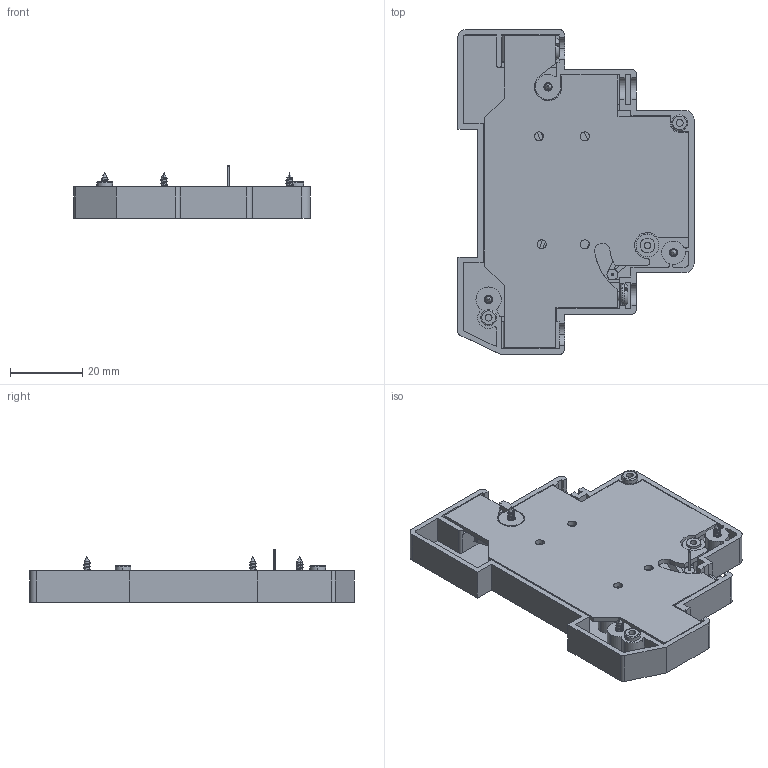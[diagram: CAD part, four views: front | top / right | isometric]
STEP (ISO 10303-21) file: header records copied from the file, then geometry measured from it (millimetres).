
FILE_DESCRIPTION (( 'STEP AP214' ), '1' );
FILE_NAME ('Ìîäóëü âñïîìîãàòåëüíûõ êîíòàêòîâ Opidin ÂÌ125.STEP', '2023-04-17T13:50:30', ( '' ), ( '' ), 'SwSTEP 2.0', 'SolidWorks 2018', '' );
FILE_SCHEMA (( 'AUTOMOTIVE_DESIGN' ));
Length unit declared in the file: millimetre
Products named in the file (12): ðû÷àã; Êîëîäêà; Êîíòàêòîäåðæàòåëü ÃÆÈÊ.741134.XxxX_-01; Ïåðåìû÷êà ÃÆÈÊ.741134.Xxx_„«ï á¡®àª¨ ¯à ¢ë©; 鎔艜; Ìîäóëü âñïîìîãàòåëüíûõ êîíòàêòîâ Opidin ÂÌ125; Êîíòàêòîäåðæàòåëü ÃÆÈÊ.741134.XxxX_„«ï á¡®àª¨ ¯à ¢ë©; Êðûøêà; Òîëêàòåëü; 扻豵鵨; ñàìîðåç; ﾘ ﾃﾆﾈﾊ.715311.Xxx
Assembly tree (22 placements, depth 2):
  Ìîäóëü âñïîìîãàòåëüíûõ êîíòàêòîâ Opidin ÂÌ125
    扻豵鵨
    Êðûøêà
    Êîíòàêòîäåðæàòåëü ÃÆÈÊ.741134.XxxX_-01  x2
    Êîíòàêòîäåðæàòåëü ÃÆÈÊ.741134.XxxX_„«ï á¡®àª¨ ¯à ¢ë©  x2
    Òîëêàòåëü
    Ïåðåìû÷êà ÃÆÈÊ.741134.Xxx_„«ï á¡®àª¨ ¯à ¢ë©  x2
    ðû÷àã
    ﾘ ﾃﾆﾈﾊ.715311.Xxx
    Êîëîäêà  x4
    鎔艜  x4
    ñàìîðåç  x3
Bounding box: 65.5 x 90.1 x 14.7 mm (x, y, z)
Volume: 19103.8 mm3; surface area: 31648.2 mm2
Topology: 22 solids, 22 shells, 1091 faces, 2832 edges, 1813 vertices
Faces by surface type: plane 693, cylinder 332, torus 34, cone 25, bspline 6, sphere 1
Entity records: 21694 total; most frequent: CARTESIAN_POINT 4611, ORIENTED_EDGE 3454, DIRECTION 3435, EDGE_CURVE 1727, VECTOR 1209, LINE 1209, VERTEX_POINT 1127, AXIS2_PLACEMENT_3D 1113
